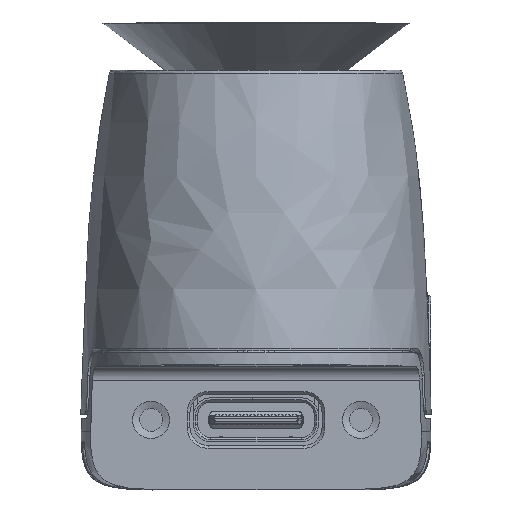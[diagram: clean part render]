
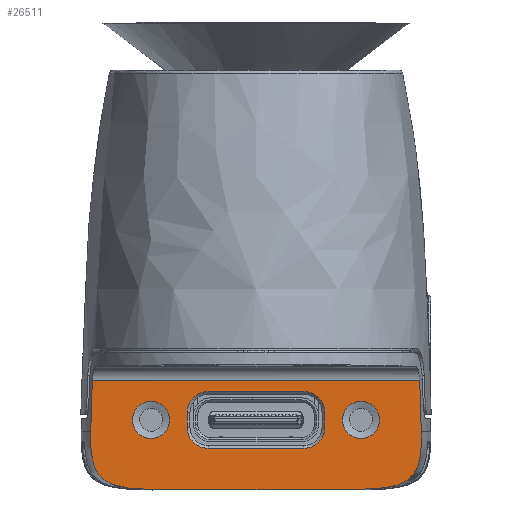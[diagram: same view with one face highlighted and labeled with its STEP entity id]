
A CAD part, left-side view. The second image highlights one B-rep face of the part: STEP entity #26511.
In plain terms, the highlighted planar face has unit normal (-1, 0, 0).
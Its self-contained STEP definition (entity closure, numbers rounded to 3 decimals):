
#570=FACE_BOUND('',#4337,.T.);
#571=FACE_BOUND('',#4338,.T.);
#572=FACE_BOUND('',#4339,.T.);
#1504=B_SPLINE_CURVE_WITH_KNOTS('',3,(#55778,#55779,#55780,#55781,#55782,
#55783),.UNSPECIFIED.,.F.,.F.,(4,2,4),(0.,0.191,
0.361),.UNSPECIFIED.);
#1508=B_SPLINE_CURVE_WITH_KNOTS('',3,(#56008,#56009,#56010,#56011,#56012,
#56013),.UNSPECIFIED.,.F.,.F.,(4,2,4),(0.,0.174,
0.369),.UNSPECIFIED.);
#1516=B_SPLINE_CURVE_WITH_KNOTS('',3,(#56470,#56471,#56472,#56473,#56474,
#56475,#56476,#56477,#56478,#56479,#56480,#56481,#56482,#56483),
 .UNSPECIFIED.,.F.,.F.,(4,2,2,2,2,2,4),(0.,0.252,
0.445,0.592,0.798,1.104,
1.638),.UNSPECIFIED.);
#1517=B_SPLINE_CURVE_WITH_KNOTS('',3,(#56486,#56487,#56488,#56489,#56490,
#56491,#56492,#56493,#56494,#56495,#56496,#56497,#56498,#56499),
 .UNSPECIFIED.,.F.,.F.,(4,2,2,2,2,2,4),(-0.578,-0.505,
-0.443,-0.394,-0.32,-0.21,
0.),.UNSPECIFIED.);
#2750=FACE_OUTER_BOUND('',#4336,.T.);
#4336=EDGE_LOOP('',(#18771,#18772,#18773,#18774,#18775,#18776));
#4337=EDGE_LOOP('',(#18777,#18778,#18779,#18780,#18781,#18782,#18783,#18784));
#4338=EDGE_LOOP('',(#18785));
#4339=EDGE_LOOP('',(#18786));
#5903=LINE('',#56468,#7591);
#5904=LINE('',#56485,#7592);
#5905=LINE('',#56504,#7593);
#5906=LINE('',#56508,#7594);
#5907=LINE('',#56512,#7595);
#5908=LINE('',#56515,#7596);
#7591=VECTOR('',#32352,23.385);
#7592=VECTOR('',#32353,13.18);
#7593=VECTOR('',#32356,1.05);
#7594=VECTOR('',#32359,6.84);
#7595=VECTOR('',#32362,1.05);
#7596=VECTOR('',#32365,6.84);
#9193=CIRCLE('',#28466,1.325);
#9194=CIRCLE('',#28468,1.5);
#9195=CIRCLE('',#28469,1.5);
#9196=CIRCLE('',#28470,1.5);
#9197=CIRCLE('',#28471,1.5);
#9198=CIRCLE('',#28472,1.325);
#10744=VERTEX_POINT('',#55766);
#10745=VERTEX_POINT('',#55777);
#10748=VERTEX_POINT('',#55988);
#10749=VERTEX_POINT('',#56007);
#10770=VERTEX_POINT('',#56464);
#10771=VERTEX_POINT('',#56469);
#10772=VERTEX_POINT('',#56484);
#10773=VERTEX_POINT('',#56500);
#10774=VERTEX_POINT('',#56501);
#10775=VERTEX_POINT('',#56503);
#10776=VERTEX_POINT('',#56505);
#10777=VERTEX_POINT('',#56507);
#10778=VERTEX_POINT('',#56509);
#10779=VERTEX_POINT('',#56511);
#10780=VERTEX_POINT('',#56513);
#10781=VERTEX_POINT('',#56516);
#13581=EDGE_CURVE('',#10745,#10744,#1504,.T.);
#13585=EDGE_CURVE('',#10749,#10748,#1508,.T.);
#13633=EDGE_CURVE('',#10770,#10770,#9193,.T.);
#13634=EDGE_CURVE('',#10748,#10745,#5903,.T.);
#13635=EDGE_CURVE('',#10771,#10744,#1516,.T.);
#13636=EDGE_CURVE('',#10771,#10772,#5904,.T.);
#13637=EDGE_CURVE('',#10772,#10749,#1517,.T.);
#13638=EDGE_CURVE('',#10773,#10774,#9194,.T.);
#13639=EDGE_CURVE('',#10775,#10773,#5905,.T.);
#13640=EDGE_CURVE('',#10776,#10775,#9195,.T.);
#13641=EDGE_CURVE('',#10777,#10776,#5906,.T.);
#13642=EDGE_CURVE('',#10778,#10777,#9196,.T.);
#13643=EDGE_CURVE('',#10779,#10778,#5907,.T.);
#13644=EDGE_CURVE('',#10780,#10779,#9197,.T.);
#13645=EDGE_CURVE('',#10774,#10780,#5908,.T.);
#13646=EDGE_CURVE('',#10781,#10781,#9198,.T.);
#18771=ORIENTED_EDGE('',*,*,#13634,.T.);
#18772=ORIENTED_EDGE('',*,*,#13581,.T.);
#18773=ORIENTED_EDGE('',*,*,#13635,.F.);
#18774=ORIENTED_EDGE('',*,*,#13636,.T.);
#18775=ORIENTED_EDGE('',*,*,#13637,.T.);
#18776=ORIENTED_EDGE('',*,*,#13585,.T.);
#18777=ORIENTED_EDGE('',*,*,#13638,.F.);
#18778=ORIENTED_EDGE('',*,*,#13639,.F.);
#18779=ORIENTED_EDGE('',*,*,#13640,.F.);
#18780=ORIENTED_EDGE('',*,*,#13641,.F.);
#18781=ORIENTED_EDGE('',*,*,#13642,.F.);
#18782=ORIENTED_EDGE('',*,*,#13643,.F.);
#18783=ORIENTED_EDGE('',*,*,#13644,.F.);
#18784=ORIENTED_EDGE('',*,*,#13645,.F.);
#18785=ORIENTED_EDGE('',*,*,#13633,.F.);
#18786=ORIENTED_EDGE('',*,*,#13646,.F.);
#24067=PLANE('',#28467);
#26511=ADVANCED_FACE('',(#2750,#570,#571,#572),#24067,.F.);
#28466=AXIS2_PLACEMENT_3D('',#56466,#32348,#32349);
#28467=AXIS2_PLACEMENT_3D('',#56467,#32350,#32351);
#28468=AXIS2_PLACEMENT_3D('',#56502,#32354,#32355);
#28469=AXIS2_PLACEMENT_3D('',#56506,#32357,#32358);
#28470=AXIS2_PLACEMENT_3D('',#56510,#32360,#32361);
#28471=AXIS2_PLACEMENT_3D('',#56514,#32363,#32364);
#28472=AXIS2_PLACEMENT_3D('',#56517,#32366,#32367);
#32348=DIRECTION('center_axis',(-1.,0.,0.));
#32349=DIRECTION('ref_axis',(0.,1.,0.));
#32350=DIRECTION('center_axis',(1.,0.,0.));
#32351=DIRECTION('ref_axis',(0.,0.,-1.));
#32352=DIRECTION('',(0.,1.,0.));
#32353=DIRECTION('',(0.,-1.,0.));
#32354=DIRECTION('center_axis',(-1.,0.,0.));
#32355=DIRECTION('ref_axis',(0.,1.,0.));
#32356=DIRECTION('',(0.,0.,-1.));
#32357=DIRECTION('center_axis',(-1.,0.,0.));
#32358=DIRECTION('ref_axis',(0.,0.,1.));
#32359=DIRECTION('',(0.,1.,0.));
#32360=DIRECTION('center_axis',(-1.,0.,0.));
#32361=DIRECTION('ref_axis',(0.,-1.,0.));
#32362=DIRECTION('',(0.,0.,1.));
#32363=DIRECTION('center_axis',(-1.,0.,0.));
#32364=DIRECTION('ref_axis',(0.,0.,-1.));
#32365=DIRECTION('',(0.,-1.,0.));
#32366=DIRECTION('center_axis',(-1.,0.,0.));
#32367=DIRECTION('ref_axis',(0.,1.,0.));
#55766=CARTESIAN_POINT('',(-35.2,11.806,-14.495));
#55777=CARTESIAN_POINT('',(-35.2,11.693,-10.833));
#55778=CARTESIAN_POINT('Ctrl Pts',(-35.2,11.693,-10.833));
#55779=CARTESIAN_POINT('Ctrl Pts',(-35.2,11.712,-11.469));
#55780=CARTESIAN_POINT('Ctrl Pts',(-35.2,11.733,-12.128));
#55781=CARTESIAN_POINT('Ctrl Pts',(-35.2,11.767,-13.261));
#55782=CARTESIAN_POINT('Ctrl Pts',(-35.2,11.787,-13.915));
#55783=CARTESIAN_POINT('Ctrl Pts',(-35.2,11.806,-14.495));
#55988=CARTESIAN_POINT('',(-35.2,-11.693,-10.833));
#56007=CARTESIAN_POINT('',(-35.2,-11.806,-14.495));
#56008=CARTESIAN_POINT('Ctrl Pts',(-35.2,-11.806,-14.495));
#56009=CARTESIAN_POINT('Ctrl Pts',(-35.2,-11.787,-13.915));
#56010=CARTESIAN_POINT('Ctrl Pts',(-35.2,-11.767,
-13.262));
#56011=CARTESIAN_POINT('Ctrl Pts',(-35.2,-11.733,
-12.128));
#56012=CARTESIAN_POINT('Ctrl Pts',(-35.2,-11.712,-11.469));
#56013=CARTESIAN_POINT('Ctrl Pts',(-35.2,-11.693,-10.833));
#56464=CARTESIAN_POINT('',(-35.2,7.5,-12.32));
#56466=CARTESIAN_POINT('Origin',(-35.2,7.5,-13.645));
#56467=CARTESIAN_POINT('Origin',(-35.2,-20.,-9.65));
#56468=CARTESIAN_POINT('',(-35.2,-11.693,-10.833));
#56469=CARTESIAN_POINT('',(-35.2,6.59,-18.65));
#56470=CARTESIAN_POINT('Ctrl Pts',(-35.2,6.59,-18.65));
#56471=CARTESIAN_POINT('Ctrl Pts',(-35.2,7.43,-18.65));
#56472=CARTESIAN_POINT('Ctrl Pts',(-35.2,8.197,-18.624));
#56473=CARTESIAN_POINT('Ctrl Pts',(-35.2,9.369,-18.484));
#56474=CARTESIAN_POINT('Ctrl Pts',(-35.2,9.839,-18.391));
#56475=CARTESIAN_POINT('Ctrl Pts',(-35.2,10.549,-18.115));
#56476=CARTESIAN_POINT('Ctrl Pts',(-35.2,10.772,-17.977));
#56477=CARTESIAN_POINT('Ctrl Pts',(-35.2,11.185,-17.627));
#56478=CARTESIAN_POINT('Ctrl Pts',(-35.2,11.332,-17.405));
#56479=CARTESIAN_POINT('Ctrl Pts',(-35.2,11.573,-16.937));
#56480=CARTESIAN_POINT('Ctrl Pts',(-35.2,11.661,-16.624));
#56481=CARTESIAN_POINT('Ctrl Pts',(-35.2,11.812,-15.772));
#56482=CARTESIAN_POINT('Ctrl Pts',(-35.2,11.826,-15.141));
#56483=CARTESIAN_POINT('Ctrl Pts',(-35.2,11.806,-14.495));
#56484=CARTESIAN_POINT('',(-35.2,-6.59,-18.65));
#56485=CARTESIAN_POINT('',(-35.2,6.59,-18.65));
#56486=CARTESIAN_POINT('Ctrl Pts',(-35.2,-6.59,-18.65));
#56487=CARTESIAN_POINT('Ctrl Pts',(-35.2,-7.247,-18.65));
#56488=CARTESIAN_POINT('Ctrl Pts',(-35.2,-7.999,
-18.633));
#56489=CARTESIAN_POINT('Ctrl Pts',(-35.2,-9.234,
-18.508));
#56490=CARTESIAN_POINT('Ctrl Pts',(-35.2,-9.737,
-18.417));
#56491=CARTESIAN_POINT('Ctrl Pts',(-35.2,-10.493,
-18.145));
#56492=CARTESIAN_POINT('Ctrl Pts',(-35.2,-10.722,
-18.008));
#56493=CARTESIAN_POINT('Ctrl Pts',(-35.2,-11.147,
-17.672));
#56494=CARTESIAN_POINT('Ctrl Pts',(-35.2,-11.3,-17.453));
#56495=CARTESIAN_POINT('Ctrl Pts',(-35.2,-11.542,-17.015));
#56496=CARTESIAN_POINT('Ctrl Pts',(-35.2,-11.634,
-16.721));
#56497=CARTESIAN_POINT('Ctrl Pts',(-35.2,-11.809,-15.864));
#56498=CARTESIAN_POINT('Ctrl Pts',(-35.2,-11.828,-15.196));
#56499=CARTESIAN_POINT('Ctrl Pts',(-35.2,-11.806,-14.495));
#56500=CARTESIAN_POINT('',(-35.2,4.92,-14.17));
#56501=CARTESIAN_POINT('',(-35.2,3.42,-15.67));
#56502=CARTESIAN_POINT('Origin',(-35.2,3.42,-14.17));
#56503=CARTESIAN_POINT('',(-35.2,4.92,-13.12));
#56504=CARTESIAN_POINT('',(-35.2,4.92,-13.12));
#56505=CARTESIAN_POINT('',(-35.2,3.42,-11.62));
#56506=CARTESIAN_POINT('Origin',(-35.2,3.42,-13.12));
#56507=CARTESIAN_POINT('',(-35.2,-3.42,-11.62));
#56508=CARTESIAN_POINT('',(-35.2,-3.42,-11.62));
#56509=CARTESIAN_POINT('',(-35.2,-4.92,-13.12));
#56510=CARTESIAN_POINT('Origin',(-35.2,-3.42,-13.12));
#56511=CARTESIAN_POINT('',(-35.2,-4.92,-14.17));
#56512=CARTESIAN_POINT('',(-35.2,-4.92,-14.17));
#56513=CARTESIAN_POINT('',(-35.2,-3.42,-15.67));
#56514=CARTESIAN_POINT('Origin',(-35.2,-3.42,-14.17));
#56515=CARTESIAN_POINT('',(-35.2,3.42,-15.67));
#56516=CARTESIAN_POINT('',(-35.2,-7.5,-12.32));
#56517=CARTESIAN_POINT('Origin',(-35.2,-7.5,-13.645));
